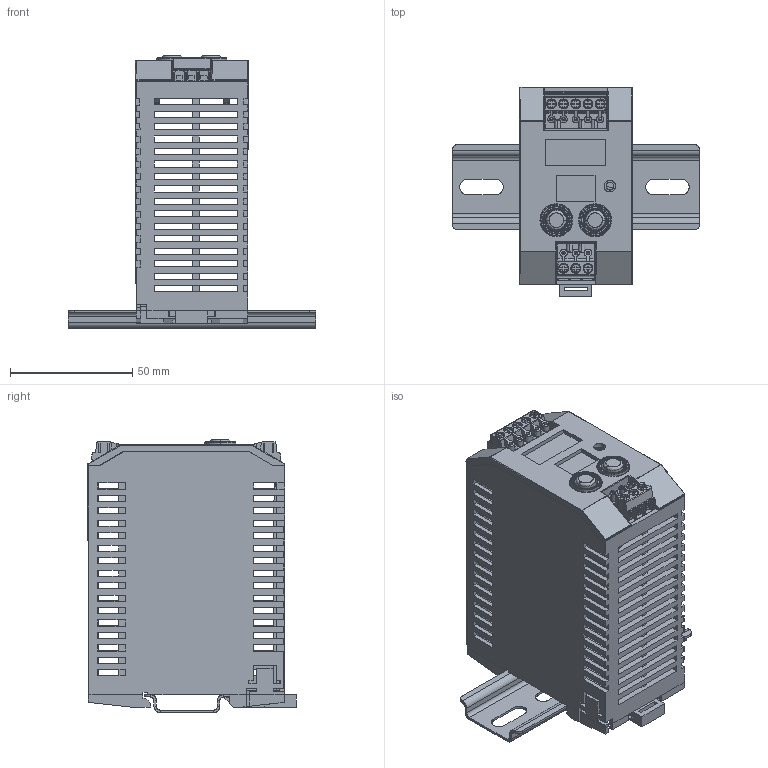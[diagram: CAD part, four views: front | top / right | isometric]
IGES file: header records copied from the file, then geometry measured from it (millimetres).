
Start section: SolidWorks IGES file using analytic representation for surfaces
Global section: file name: C:\Users\freiberg\Desktop\ASY-EZPWR-30W.IGS; native system: SolidWorks 2016; preprocessor: SolidWorks 2016; author: freiberg; date: 160627.154825; units: inch
Bounding box: 101.6 x 85.5 x 111.89 mm (x, y, z)
Surface area: 94741.2 mm2 (no closed solid volume)
Topology: 0 solids, 0 shells, 2875 faces, 25137 edges, 25057 vertices
Faces by surface type: bspline 2059, revolution 816
